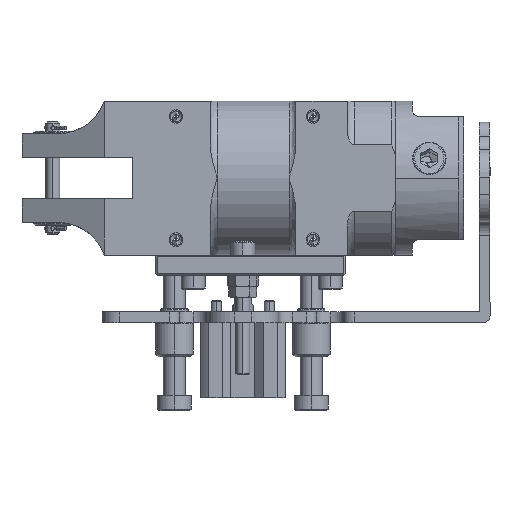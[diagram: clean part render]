
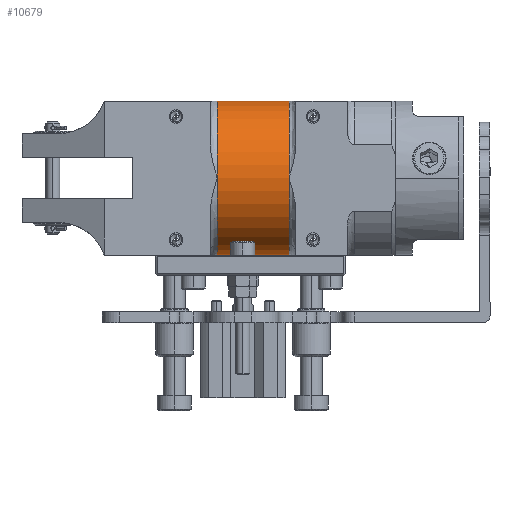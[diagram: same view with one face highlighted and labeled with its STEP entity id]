
A CAD part, left-side view. The second image highlights one B-rep face of the part: STEP entity #10679.
In plain terms, the highlighted cylindrical face has radius 22.5 mm (diameter 45 mm), a partial arc.
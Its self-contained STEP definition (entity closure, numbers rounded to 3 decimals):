
#135 = DIRECTION ( 'NONE',  ( 0., 1., 0. ) ) ;
#207 = ORIENTED_EDGE ( 'NONE', *, *, #21206, .F. ) ;
#256 = DIRECTION ( 'NONE',  ( 0., 0., 1. ) ) ;
#1402 = EDGE_LOOP ( 'NONE', ( #207, #17521, #29353, #33353, #29795, #23528 ) ) ;
#2520 = AXIS2_PLACEMENT_3D ( 'NONE', #21351, #3584, #24343 ) ;
#3115 = EDGE_CURVE ( 'NONE', #17834, #5682, #6105, .T. ) ;
#3584 = DIRECTION ( 'NONE',  ( 0., 1., 0. ) ) ;
#4960 = CARTESIAN_POINT ( 'NONE',  ( -1.547, -18.519, 117.965 ) ) ;
#5477 = EDGE_CURVE ( 'NONE', #8790, #22695, #32972, .T. ) ;
#5682 = VERTEX_POINT ( 'NONE', #31730 ) ;
#6105 = LINE ( 'NONE', #12156, #36755 ) ;
#7067 = CIRCLE ( 'NONE', #35145, 22.5 ) ;
#7544 = FACE_OUTER_BOUND ( 'NONE', #1402, .T. ) ;
#8330 = CARTESIAN_POINT ( 'NONE',  ( -1.547, 2.481, 140.465 ) ) ;
#8790 = VERTEX_POINT ( 'NONE', #26879 ) ;
#9112 = EDGE_CURVE ( 'NONE', #22695, #23351, #20248, .T. ) ;
#9324 = CARTESIAN_POINT ( 'NONE',  ( -1.547, -18.519, 162.965 ) ) ;
#10629 = EDGE_CURVE ( 'NONE', #5682, #13240, #34030, .T. ) ;
#10679 = ADVANCED_FACE ( 'NONE', ( #7544 ), #14496, .F. ) ;
#11099 = CARTESIAN_POINT ( 'NONE',  ( -1.547, 2.481, 140.465 ) ) ;
#11273 = DIRECTION ( 'NONE',  ( 0., 1., 0. ) ) ;
#11356 = DIRECTION ( 'NONE',  ( 0., 0., 1. ) ) ;
#11358 = CARTESIAN_POINT ( 'NONE',  ( -1.547, -18.519, 140.465 ) ) ;
#11627 = AXIS2_PLACEMENT_3D ( 'NONE', #34963, #135, #256 ) ;
#12156 = CARTESIAN_POINT ( 'NONE',  ( -1.547, -18.519, 117.965 ) ) ;
#12903 = CIRCLE ( 'NONE', #2520, 22.5 ) ;
#13240 = VERTEX_POINT ( 'NONE', #17244 ) ;
#14084 = DIRECTION ( 'NONE',  ( 0., 0., 1. ) ) ;
#14320 = DIRECTION ( 'NONE',  ( 0., 1., 0. ) ) ;
#14496 = CYLINDRICAL_SURFACE ( 'NONE', #18236, 22.5 ) ;
#17209 = DIRECTION ( 'NONE',  ( 0., 0., 1. ) ) ;
#17244 = CARTESIAN_POINT ( 'NONE',  ( -24.047, 2.481, 140.465 ) ) ;
#17521 = ORIENTED_EDGE ( 'NONE', *, *, #3115, .T. ) ;
#17834 = VERTEX_POINT ( 'NONE', #4960 ) ;
#18236 = AXIS2_PLACEMENT_3D ( 'NONE', #11358, #14320, #17209 ) ;
#19840 = CARTESIAN_POINT ( 'NONE',  ( -1.547, 2.481, 162.965 ) ) ;
#20248 = LINE ( 'NONE', #21796, #35054 ) ;
#21206 = EDGE_CURVE ( 'NONE', #17834, #8790, #12903, .T. ) ;
#21351 = CARTESIAN_POINT ( 'NONE',  ( -1.547, -18.519, 140.465 ) ) ;
#21796 = CARTESIAN_POINT ( 'NONE',  ( -1.547, -18.519, 162.965 ) ) ;
#22695 = VERTEX_POINT ( 'NONE', #9324 ) ;
#23351 = VERTEX_POINT ( 'NONE', #19840 ) ;
#23528 = ORIENTED_EDGE ( 'NONE', *, *, #5477, .F. ) ;
#24343 = DIRECTION ( 'NONE',  ( -1., 0., 0. ) ) ;
#25809 = EDGE_CURVE ( 'NONE', #13240, #23351, #7067, .T. ) ;
#26879 = CARTESIAN_POINT ( 'NONE',  ( -24.047, -18.519, 140.465 ) ) ;
#29130 = DIRECTION ( 'NONE',  ( 0., 1., 0. ) ) ;
#29353 = ORIENTED_EDGE ( 'NONE', *, *, #10629, .T. ) ;
#29795 = ORIENTED_EDGE ( 'NONE', *, *, #9112, .F. ) ;
#31730 = CARTESIAN_POINT ( 'NONE',  ( -1.547, 2.481, 117.965 ) ) ;
#31869 = DIRECTION ( 'NONE',  ( 0., 1., 0. ) ) ;
#32972 = CIRCLE ( 'NONE', #11627, 22.5 ) ;
#33353 = ORIENTED_EDGE ( 'NONE', *, *, #25809, .T. ) ;
#33723 = DIRECTION ( 'NONE',  ( 0., 1., 0. ) ) ;
#34030 = CIRCLE ( 'NONE', #36866, 22.5 ) ;
#34963 = CARTESIAN_POINT ( 'NONE',  ( -1.547, -18.519, 140.465 ) ) ;
#35054 = VECTOR ( 'NONE', #33723, 1000. ) ;
#35145 = AXIS2_PLACEMENT_3D ( 'NONE', #8330, #29130, #11356 ) ;
#36755 = VECTOR ( 'NONE', #11273, 1000. ) ;
#36866 = AXIS2_PLACEMENT_3D ( 'NONE', #11099, #31869, #14084 ) ;
